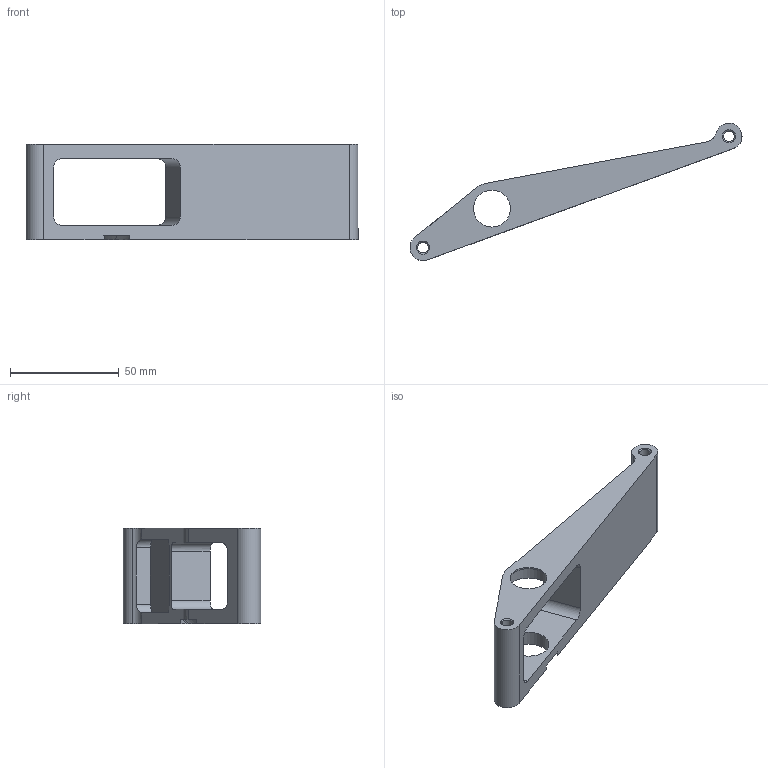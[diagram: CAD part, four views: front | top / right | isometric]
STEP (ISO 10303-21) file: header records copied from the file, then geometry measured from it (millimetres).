
FILE_DESCRIPTION(/* description */ ('VariCAD 2010-3.03 AP-214'),/* implementation_level */ '2;1');
FILE_NAME(/* name */ '0353-22-06',/* time_stamp */ '2011-06-28T19:43:01-06:00',/* author */ (''),/* organization */ (''),/* preprocessor_version */ 'ST-DEVELOPER v12',/* originating_system */ 'VariCAD 2010-3.03; kernel version (20100102)',/* authorisation */ '');
FILE_SCHEMA (('AUTOMOTIVE_DESIGN'));
Length unit declared in the file: millimetre
Products named in the file (1): Part
Bounding box: 152.94 x 63.29 x 44 mm (x, y, z)
Volume: 38561.8 mm3; surface area: 26420.3 mm2
Topology: 3 solids, 3 shells, 60 faces, 156 edges, 100 vertices
Faces by surface type: cylinder 33, plane 21, cone 6
Entity records: 2398 total; most frequent: CARTESIAN_POINT 386, DIRECTION 341, ORIENTED_EDGE 312, EDGE_CURVE 156, AXIS2_PLACEMENT_3D 129, VERTEX_POINT 100, LINE 83, VECTOR 83
